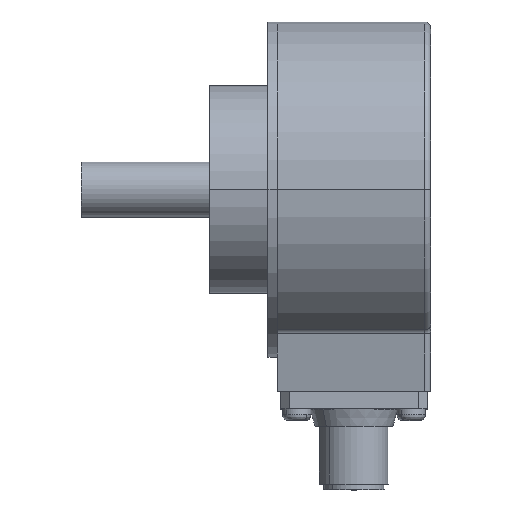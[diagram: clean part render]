
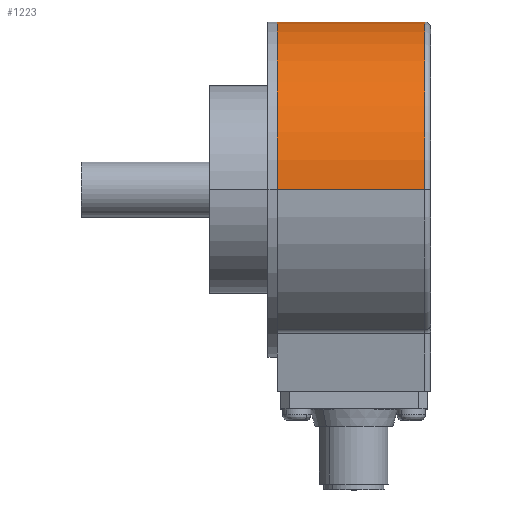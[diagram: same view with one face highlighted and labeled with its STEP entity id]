
A CAD part, top view. The second image highlights one B-rep face of the part: STEP entity #1223.
In plain terms, the highlighted cylindrical face has radius 29 mm (diameter 58 mm), a partial arc.
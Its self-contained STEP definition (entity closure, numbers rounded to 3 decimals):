
#109 = CARTESIAN_POINT ( 'NONE',  ( 33.568, 25.423, -29. ) ) ;
#636 = EDGE_CURVE ( 'NONE', #8400, #7481, #14108, .T. ) ;
#699 = CARTESIAN_POINT ( 'NONE',  ( 33.568, 25.423, 29. ) ) ;
#1223 = ADVANCED_FACE ( 'NONE', ( #14283 ), #9361, .T. ) ;
#2117 = ORIENTED_EDGE ( 'NONE', *, *, #12464, .T. ) ;
#2324 = DIRECTION ( 'NONE',  ( 0., 0., -1. ) ) ;
#2498 = VERTEX_POINT ( 'NONE', #109 ) ;
#2653 = CARTESIAN_POINT ( 'NONE',  ( 8.068, 25.423, -29. ) ) ;
#3054 = LINE ( 'NONE', #14379, #4223 ) ;
#3237 = CARTESIAN_POINT ( 'NONE',  ( 8.068, 25.423, 0. ) ) ;
#3391 = EDGE_LOOP ( 'NONE', ( #10549, #2117, #11741, #15238 ) ) ;
#4223 = VECTOR ( 'NONE', #6817, 1000. ) ;
#4366 = DIRECTION ( 'NONE',  ( 0., 0., -1. ) ) ;
#5117 = DIRECTION ( 'NONE',  ( -1., 0., 0. ) ) ;
#5479 = AXIS2_PLACEMENT_3D ( 'NONE', #10740, #13076, #2324 ) ;
#5948 = AXIS2_PLACEMENT_3D ( 'NONE', #10151, #5117, #11054 ) ;
#6786 = DIRECTION ( 'NONE',  ( -1., 0., 0. ) ) ;
#6817 = DIRECTION ( 'NONE',  ( -1., 0., 0. ) ) ;
#7481 = VERTEX_POINT ( 'NONE', #11047 ) ;
#7753 = CARTESIAN_POINT ( 'NONE',  ( 8.068, 25.423, 29. ) ) ;
#8400 = VERTEX_POINT ( 'NONE', #699 ) ;
#8754 = EDGE_CURVE ( 'NONE', #7481, #14994, #14608, .T. ) ;
#8932 = AXIS2_PLACEMENT_3D ( 'NONE', #3237, #10459, #4366 ) ;
#9361 = CYLINDRICAL_SURFACE ( 'NONE', #5479, 29. ) ;
#10151 = CARTESIAN_POINT ( 'NONE',  ( 33.568, 25.423, 0. ) ) ;
#10459 = DIRECTION ( 'NONE',  ( -1., 0., 0. ) ) ;
#10549 = ORIENTED_EDGE ( 'NONE', *, *, #636, .F. ) ;
#10740 = CARTESIAN_POINT ( 'NONE',  ( 8.068, 25.423, 0. ) ) ;
#11047 = CARTESIAN_POINT ( 'NONE',  ( 8.068, 25.423, 29. ) ) ;
#11054 = DIRECTION ( 'NONE',  ( 0., 0., -1. ) ) ;
#11741 = ORIENTED_EDGE ( 'NONE', *, *, #13936, .T. ) ;
#12464 = EDGE_CURVE ( 'NONE', #8400, #2498, #13897, .T. ) ;
#13076 = DIRECTION ( 'NONE',  ( -1., 0., 0. ) ) ;
#13897 = CIRCLE ( 'NONE', #5948, 29. ) ;
#13936 = EDGE_CURVE ( 'NONE', #2498, #14994, #3054, .T. ) ;
#14108 = LINE ( 'NONE', #7753, #15731 ) ;
#14283 = FACE_OUTER_BOUND ( 'NONE', #3391, .T. ) ;
#14379 = CARTESIAN_POINT ( 'NONE',  ( 8.068, 25.423, -29. ) ) ;
#14608 = CIRCLE ( 'NONE', #8932, 29. ) ;
#14994 = VERTEX_POINT ( 'NONE', #2653 ) ;
#15238 = ORIENTED_EDGE ( 'NONE', *, *, #8754, .F. ) ;
#15731 = VECTOR ( 'NONE', #6786, 1000. ) ;
